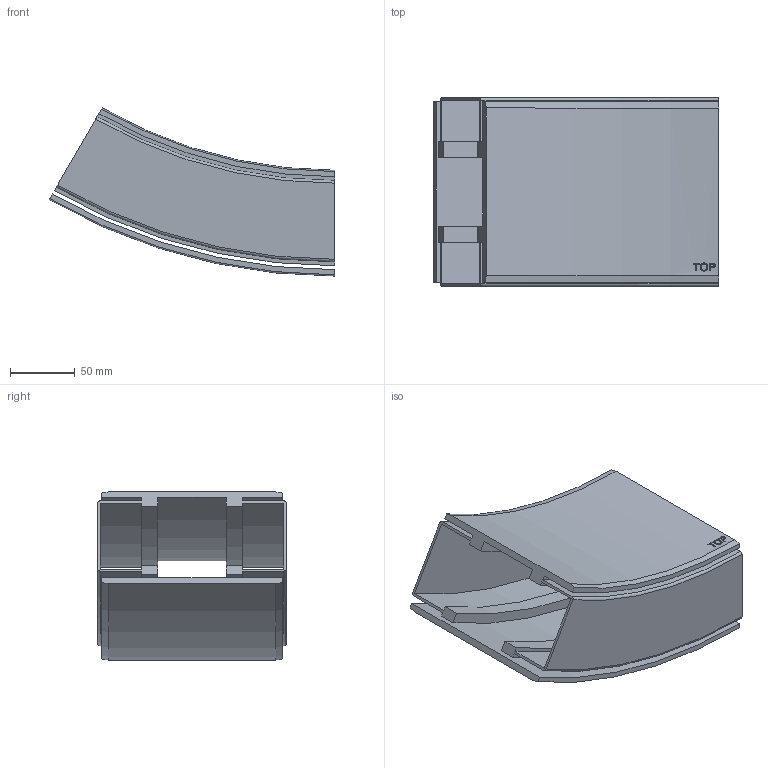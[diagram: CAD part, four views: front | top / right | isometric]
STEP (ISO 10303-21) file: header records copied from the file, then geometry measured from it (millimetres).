
FILE_DESCRIPTION(/* description */ ('VERTIKALKURVA S540 R400'),/* implementation_level */ '2;1');
FILE_NAME(/* name */ '540-5645+140-2000-UPP-01.stp',/* time_stamp */ '2022-09-21T10:38:22+02:00',/* author */ ('Mathias.Dore'),/* organization */ ('CARRYLINE'),/* preprocessor_version */ 'ST-DEVELOPER v19.2',/* originating_system */ 'Autodesk Inventor 2023',/* authorisation */ '');
FILE_SCHEMA (('AUTOMOTIVE_DESIGN { 1 0 10303 214 3 1 1 }'));
Length unit declared in the file: millimetre
Products named in the file (1): 540-5645+140-2000-UPP-01
Bounding box: 221.25 x 146 x 130.3 mm (x, y, z)
Volume: 481661.3 mm3; surface area: 254550.4 mm2
Topology: 2 solids, 2 shells, 87 faces, 234 edges, 156 vertices
Faces by surface type: plane 40, cylinder 25, bspline 14, cone 4, torus 4
Entity records: 7357 total; most frequent: CARTESIAN_POINT 5158, ORIENTED_EDGE 468, DIRECTION 408, EDGE_CURVE 234, VERTEX_POINT 156, AXIS2_PLACEMENT_3D 141, LINE 126, VECTOR 126
